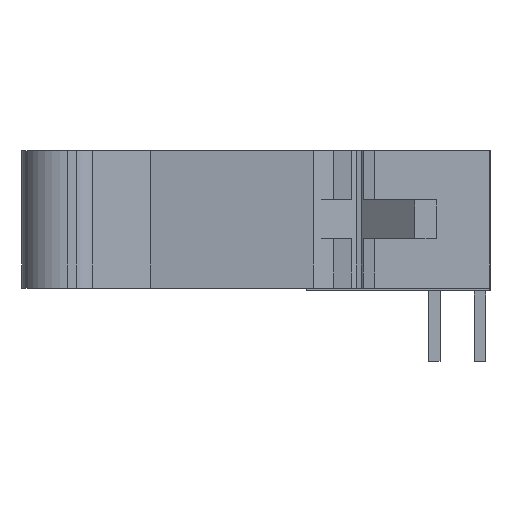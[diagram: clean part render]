
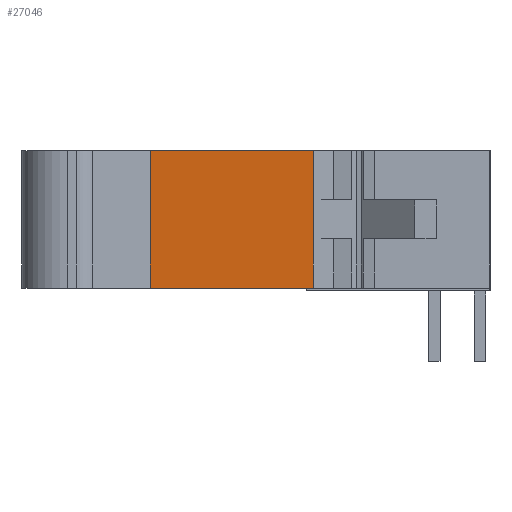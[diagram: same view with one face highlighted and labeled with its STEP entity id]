
A CAD part, left-side view. The second image highlights one B-rep face of the part: STEP entity #27046.
In plain terms, the highlighted planar face has unit normal (-0.992, 0.123, 0).
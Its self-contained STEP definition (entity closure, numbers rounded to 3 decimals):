
#498 = LINE ( 'NONE', #14876, #27842 ) ;
#3931 = PLANE ( 'NONE',  #8219 ) ;
#4168 = EDGE_CURVE ( 'NONE', #11788, #21126, #38567, .T. ) ;
#4391 = CARTESIAN_POINT ( 'NONE',  ( -18.052, 0.731, 3. ) ) ;
#5766 = ORIENTED_EDGE ( 'NONE', *, *, #24000, .F. ) ;
#6082 = CARTESIAN_POINT ( 'NONE',  ( -17.172, 7.831, -11.52 ) ) ;
#6160 = DIRECTION ( 'NONE',  ( 0., 0., 1. ) ) ;
#7697 = DIRECTION ( 'NONE',  ( 0., 0., -1. ) ) ;
#8219 = AXIS2_PLACEMENT_3D ( 'NONE', #9102, #13160, #6160 ) ;
#8813 = EDGE_LOOP ( 'NONE', ( #23866, #27848, #25306, #5766 ) ) ;
#9102 = CARTESIAN_POINT ( 'NONE',  ( -18.052, 0.731, -11.52 ) ) ;
#10656 = LINE ( 'NONE', #22670, #13109 ) ;
#11788 = VERTEX_POINT ( 'NONE', #14212 ) ;
#13109 = VECTOR ( 'NONE', #7697, 1000. ) ;
#13160 = DIRECTION ( 'NONE',  ( -0.992, 0.123, 0. ) ) ;
#14212 = CARTESIAN_POINT ( 'NONE',  ( -18.052, 0.731, -3. ) ) ;
#14510 = CARTESIAN_POINT ( 'NONE',  ( -17.172, 7.831, 3. ) ) ;
#14876 = CARTESIAN_POINT ( 'NONE',  ( -18.052, 0.731, 3. ) ) ;
#15488 = EDGE_CURVE ( 'NONE', #21064, #11788, #10656, .T. ) ;
#16455 = EDGE_CURVE ( 'NONE', #37025, #21064, #498, .T. ) ;
#17479 = VECTOR ( 'NONE', #20274, 1000. ) ;
#18085 = DIRECTION ( 'NONE',  ( 0., 0., 1. ) ) ;
#19869 = CARTESIAN_POINT ( 'NONE',  ( -18.052, 0.731, -3. ) ) ;
#20274 = DIRECTION ( 'NONE',  ( 0.123, 0.992, 0. ) ) ;
#21064 = VERTEX_POINT ( 'NONE', #4391 ) ;
#21126 = VERTEX_POINT ( 'NONE', #26024 ) ;
#21840 = FACE_OUTER_BOUND ( 'NONE', #8813, .T. ) ;
#22670 = CARTESIAN_POINT ( 'NONE',  ( -18.052, 0.731, 3. ) ) ;
#23866 = ORIENTED_EDGE ( 'NONE', *, *, #4168, .F. ) ;
#24000 = EDGE_CURVE ( 'NONE', #21126, #37025, #27520, .T. ) ;
#25306 = ORIENTED_EDGE ( 'NONE', *, *, #16455, .F. ) ;
#26024 = CARTESIAN_POINT ( 'NONE',  ( -17.172, 7.831, -3. ) ) ;
#27046 = ADVANCED_FACE ( 'NONE', ( #21840 ), #3931, .T. ) ;
#27520 = LINE ( 'NONE', #6082, #38294 ) ;
#27842 = VECTOR ( 'NONE', #29824, 1000. ) ;
#27848 = ORIENTED_EDGE ( 'NONE', *, *, #15488, .F. ) ;
#29824 = DIRECTION ( 'NONE',  ( -0.123, -0.992, 0. ) ) ;
#37025 = VERTEX_POINT ( 'NONE', #14510 ) ;
#38294 = VECTOR ( 'NONE', #18085, 1000. ) ;
#38567 = LINE ( 'NONE', #19869, #17479 ) ;
